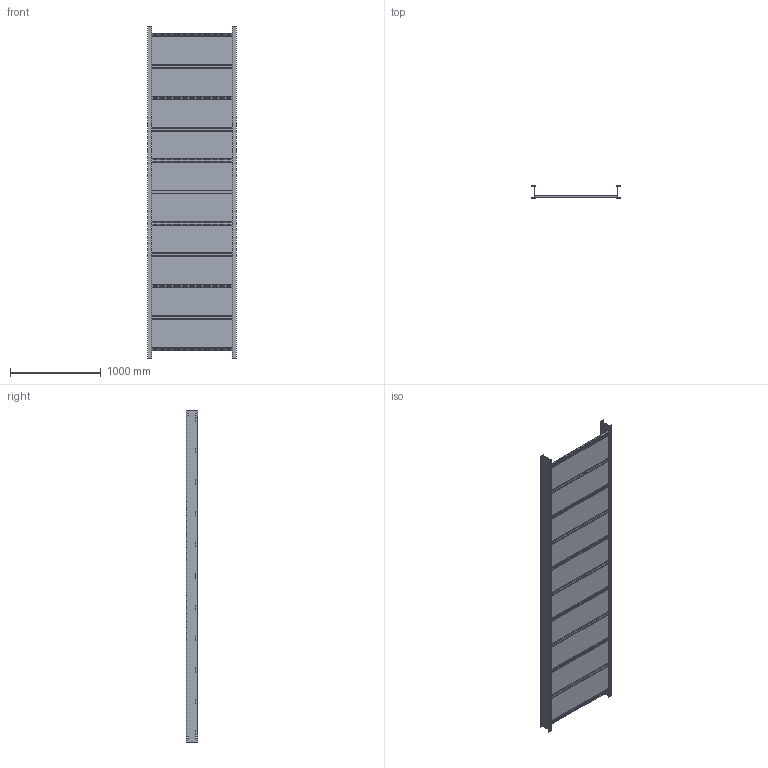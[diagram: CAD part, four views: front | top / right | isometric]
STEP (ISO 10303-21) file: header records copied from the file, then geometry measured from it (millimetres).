
FILE_DESCRIPTION((''),'2;1');
FILE_NAME('AH4536L12144_ASM','2010-02-17T',('erouzier'),(''),'PRO/ENGINEER BY PARAMETRIC TECHNOLOGY CORPORATION, 2008510','PRO/ENGINEER BY PARAMETRIC TECHNOLOGY CORPORATION, 2008510','');
FILE_SCHEMA(('CONFIG_CONTROL_DESIGN'));
Length unit declared in the file: inch
Products named in the file (14): CDS002126-007_AF3; CDS002126-007_AF4; CDS002159L36-P_AF0; CDS002159L36-P_AF1; CDS002159L36-P_AF2; CDS002159L36-P_AF3; CDS002159L36-P_AF4; CDS002159L36-P_AF5; CDS002159L36-P_AF6; CDS002159L36-P_AF7; CDS002159L36-P_AF8; CDS002159L36-P_AF9; CDS002159L36-P_AF10; AH4536L12144_ASM
Assembly tree (13 placements, depth 2):
  AH4536L12144_ASM
    CDS002126-007_AF3
    CDS002126-007_AF4
    CDS002159L36-P_AF0
    CDS002159L36-P_AF1
    CDS002159L36-P_AF2
    CDS002159L36-P_AF3
    CDS002159L36-P_AF4
    CDS002159L36-P_AF5
    CDS002159L36-P_AF6
    CDS002159L36-P_AF7
    CDS002159L36-P_AF8
    CDS002159L36-P_AF9
    CDS002159L36-P_AF10
Bounding box: 976.63 x 130.05 x 3657.6 mm (x, y, z)
Volume: 5729943.2 mm3; surface area: 8561296.2 mm2
Topology: 13 solids, 14 shells, 3399 faces, 10120 edges, 6748 vertices
Faces by surface type: plane 1778, cylinder 1621
Entity records: 116695 total; most frequent: CARTESIAN_POINT 20294, ORIENTED_EDGE 20236, DIRECTION 20214, EDGE_CURVE 10120, VECTOR 6878, LINE 6878, VERTEX_POINT 6748, AXIS2_PLACEMENT_3D 6668
